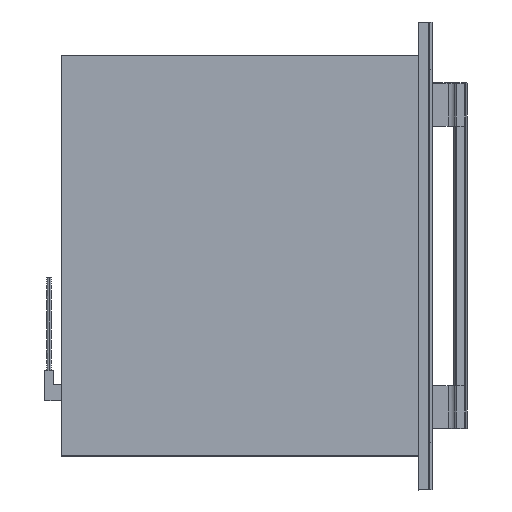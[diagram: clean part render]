
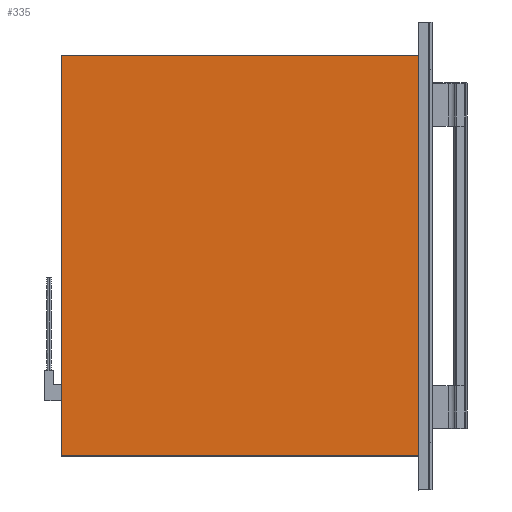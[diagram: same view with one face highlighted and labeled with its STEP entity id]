
A CAD part, top view. The second image highlights one B-rep face of the part: STEP entity #335.
In plain terms, the highlighted free-form (B-spline) face has degree [1, 1] with [2, 2] control points.
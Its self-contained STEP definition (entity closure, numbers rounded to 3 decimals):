
#335=ADVANCED_FACE('',(#457),#1643,.T.);
#457=FACE_OUTER_BOUND('',#579,.T.);
#579=EDGE_LOOP('',(#1117,#1118,#1119,#1120));
#1117=ORIENTED_EDGE('',*,*,#1396,.F.);
#1118=ORIENTED_EDGE('',*,*,#1388,.T.);
#1119=ORIENTED_EDGE('',*,*,#1395,.T.);
#1120=ORIENTED_EDGE('',*,*,#1390,.F.);
#1388=EDGE_CURVE('',#1558,#1560,#1838,.T.);
#1390=EDGE_CURVE('',#1561,#1563,#1840,.T.);
#1395=EDGE_CURVE('',#1560,#1563,#1845,.T.);
#1396=EDGE_CURVE('',#1558,#1561,#1846,.T.);
#1558=VERTEX_POINT('',#6855);
#1560=VERTEX_POINT('',#6857);
#1561=VERTEX_POINT('',#6858);
#1563=VERTEX_POINT('',#6860);
#1643=B_SPLINE_SURFACE_WITH_KNOTS('',1,1,((#6846,#6847),(#6848,#6849)),.UNSPECIFIED.,
.F.,.F.,.F.,(2,2),(2,2),(0.,1.),(0.,1.),.UNSPECIFIED.);
#1838=B_SPLINE_CURVE_WITH_KNOTS('',1,(#6812,#6813),.UNSPECIFIED.,.F.,.F.,
(2,2),(0.,1.),.UNSPECIFIED.);
#1840=B_SPLINE_CURVE_WITH_KNOTS('',1,(#6816,#6817),.UNSPECIFIED.,.F.,.F.,
(2,2),(0.,1.),.UNSPECIFIED.);
#1845=B_SPLINE_CURVE_WITH_KNOTS('',1,(#6826,#6827),.UNSPECIFIED.,.F.,.F.,
(2,2),(0.,1.),.UNSPECIFIED.);
#1846=B_SPLINE_CURVE_WITH_KNOTS('',1,(#6828,#6829),.UNSPECIFIED.,.F.,.F.,
(2,2),(0.,1.),.UNSPECIFIED.);
#6812=CARTESIAN_POINT('',(-577.867,323.798,268.028));
#6813=CARTESIAN_POINT('',(-577.867,-323.802,268.028));
#6816=CARTESIAN_POINT('',(1.666,323.798,268.028));
#6817=CARTESIAN_POINT('',(1.666,-323.802,268.028));
#6826=CARTESIAN_POINT('',(-577.867,-323.802,268.028));
#6827=CARTESIAN_POINT('',(1.666,-323.802,268.028));
#6828=CARTESIAN_POINT('',(-577.867,323.798,268.028));
#6829=CARTESIAN_POINT('',(1.666,323.798,268.028));
#6846=CARTESIAN_POINT('',(-577.867,323.798,268.028));
#6847=CARTESIAN_POINT('',(1.666,323.798,268.028));
#6848=CARTESIAN_POINT('',(-577.867,-323.802,268.028));
#6849=CARTESIAN_POINT('',(1.666,-323.802,268.028));
#6855=CARTESIAN_POINT('',(-577.867,323.798,268.028));
#6857=CARTESIAN_POINT('',(-577.867,-323.802,268.028));
#6858=CARTESIAN_POINT('',(1.666,323.798,268.028));
#6860=CARTESIAN_POINT('',(1.666,-323.802,268.028));
